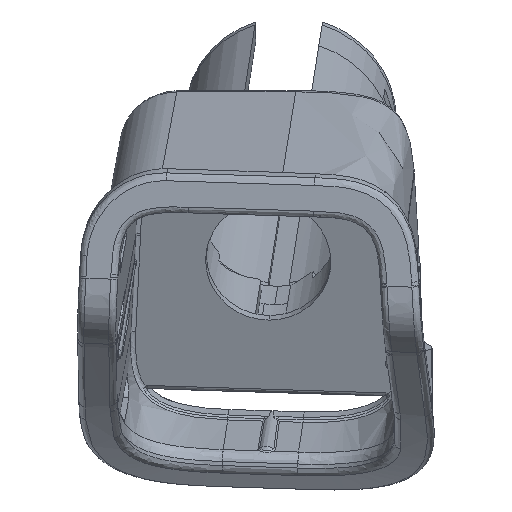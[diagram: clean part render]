
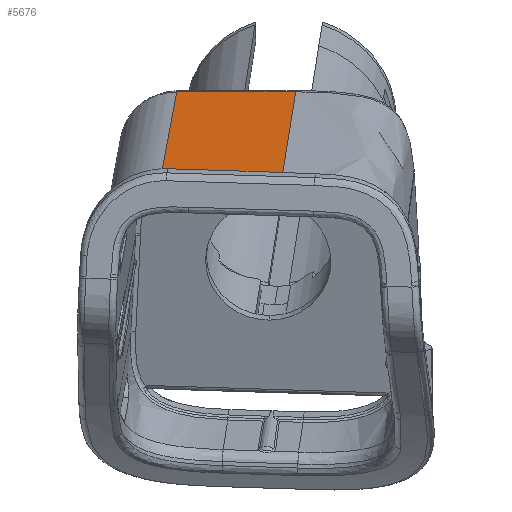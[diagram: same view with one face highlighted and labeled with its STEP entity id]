
A CAD part, top view. The second image highlights one B-rep face of the part: STEP entity #5676.
In plain terms, the highlighted planar face has unit normal (-0.016, 0.95, 0.311).
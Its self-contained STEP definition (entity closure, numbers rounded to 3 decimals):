
#2021=VECTOR('Line Direction',#2020,1.) ;
#2045=VECTOR('Line Direction',#2044,1.) ;
#5651=VECTOR('Line Direction',#5650,1.) ;
#5658=VECTOR('Line Direction',#5657,1.) ;
#5665=VECTOR('Line Direction',#5664,1.) ;
#2020=DIRECTION('Vector Direction',(0.998,-0.003,0.061)) ;
#2044=DIRECTION('Vector Direction',(-0.999,-0.003,-0.044)) ;
#5645=DIRECTION('Axis2P3D Direction',(-0.016,0.95,0.311)) ;
#5646=DIRECTION('Axis2P3D XDirection',(0.05,0.312,-0.949)) ;
#5650=DIRECTION('Vector Direction',(-0.058,-0.312,0.948)) ;
#5657=DIRECTION('Vector Direction',(0.999,0.003,0.043)) ;
#5664=DIRECTION('Vector Direction',(-0.998,0.003,-0.061)) ;
#1949=CARTESIAN_POINT('Vertex',(-383.935,-942.771,493.797)) ;
#2016=CARTESIAN_POINT('Vertex',(-387.144,-942.762,493.602)) ;
#2019=CARTESIAN_POINT('Line Origine',(-383.395,-942.772,493.83)) ;
#2043=CARTESIAN_POINT('Line Origine',(-394.147,-942.781,493.293)) ;
#2047=CARTESIAN_POINT('Vertex',(-396.337,-942.787,493.197)) ;
#5562=CARTESIAN_POINT('Control Point',(-383.935,-942.771,493.797)) ;
#5563=CARTESIAN_POINT('Control Point',(-384.266,-944.84,500.093)) ;
#5564=CARTESIAN_POINT('Control Point',(-384.597,-946.916,506.412)) ;
#5565=CARTESIAN_POINT('Control Point',(-384.93,-949.001,512.757)) ;
#5566=CARTESIAN_POINT('Control Point',(-385.262,-951.078,519.079)) ;
#5567=CARTESIAN_POINT('Control Point',(-385.592,-953.149,525.379)) ;
#5568=CARTESIAN_POINT('Vertex',(-385.592,-953.149,525.379)) ;
#5644=CARTESIAN_POINT('Axis2P3D Location',(-353.35,-953.14,527.043)) ;
#5649=CARTESIAN_POINT('Line Origine',(-397.303,-947.979,508.988)) ;
#5653=CARTESIAN_POINT('Vertex',(-398.27,-953.17,524.779)) ;
#5656=CARTESIAN_POINT('Line Origine',(-393.536,-953.155,524.981)) ;
#5660=CARTESIAN_POINT('Vertex',(-388.801,-953.14,525.183)) ;
#5663=CARTESIAN_POINT('Line Origine',(-387.197,-953.144,525.281)) ;
#5647=AXIS2_PLACEMENT_3D('Plane Axis2P3D',#5644,#5645,#5646) ;
#2023=EDGE_CURVE('',#2017,#1950,#2022,.T.) ;
#2049=EDGE_CURVE('',#2048,#2017,#2046,.F.) ;
#5570=EDGE_CURVE('',#5569,#1950,#5561,.F.) ;
#5655=EDGE_CURVE('',#5654,#2048,#5652,.F.) ;
#5662=EDGE_CURVE('',#5654,#5661,#5659,.T.) ;
#5667=EDGE_CURVE('',#5569,#5661,#5666,.T.) ;
#5648=PLANE('Plane',#5647) ;
#5669=ORIENTED_EDGE('',*,*,#2049,.F.) ;
#5670=ORIENTED_EDGE('',*,*,#5655,.F.) ;
#5671=ORIENTED_EDGE('',*,*,#5662,.T.) ;
#5672=ORIENTED_EDGE('',*,*,#5667,.F.) ;
#5673=ORIENTED_EDGE('',*,*,#5570,.T.) ;
#5674=ORIENTED_EDGE('',*,*,#2023,.F.) ;
#2022=LINE('Line',#2019,#2021) ;
#2046=LINE('Line',#2043,#2045) ;
#5652=LINE('Line',#5649,#5651) ;
#5659=LINE('Line',#5656,#5658) ;
#5666=LINE('Line',#5663,#5665) ;
#5676=ADVANCED_FACE('\X2\901F964D96005B8988C55E955EA7\X0\-2020.1217',(#5675),#5648,.T.) ;
#1950=VERTEX_POINT('',#1949) ;
#2017=VERTEX_POINT('',#2016) ;
#2048=VERTEX_POINT('',#2047) ;
#5569=VERTEX_POINT('',#5568) ;
#5654=VERTEX_POINT('',#5653) ;
#5661=VERTEX_POINT('',#5660) ;
#5561=B_SPLINE_CURVE_WITH_KNOTS('',5,(#5562,#5563,#5564,#5565,#5566,#5567),.UNSPECIFIED.,.F.,.U.,(6,6),(9.414,37.674),.UNSPECIFIED.) ;
#5668=EDGE_LOOP('',(#5669,#5670,#5671,#5672,#5673,#5674)) ;
#5675=FACE_OUTER_BOUND('',#5668,.T.) ;
